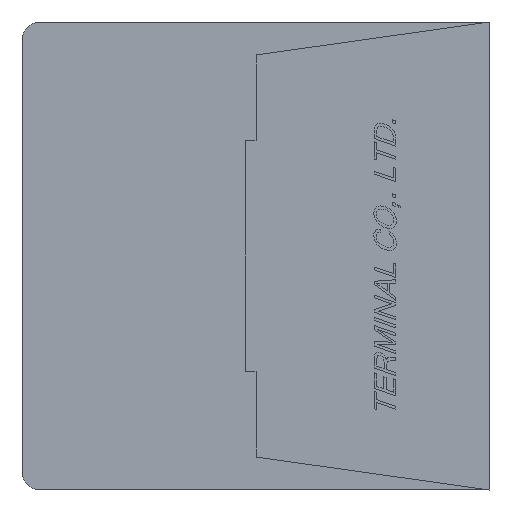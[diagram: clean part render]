
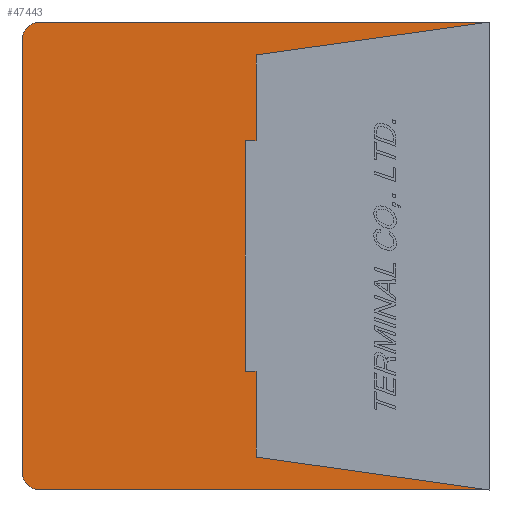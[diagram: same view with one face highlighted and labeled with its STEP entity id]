
A CAD part, left-side view. The second image highlights one B-rep face of the part: STEP entity #47443.
In plain terms, the highlighted planar face has unit normal (-1, 0, 0).
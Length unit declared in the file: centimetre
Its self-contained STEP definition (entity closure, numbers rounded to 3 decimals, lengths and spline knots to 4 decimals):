
#405=CIRCLE('',#81593,0.05);
#406=CIRCLE('',#81594,0.05);
#2930=VERTEX_POINT('',#62623);
#2931=VERTEX_POINT('',#62625);
#2932=VERTEX_POINT('',#62629);
#2933=VERTEX_POINT('',#62633);
#2934=VERTEX_POINT('',#62637);
#2935=VERTEX_POINT('',#62641);
#2936=VERTEX_POINT('',#62645);
#2937=VERTEX_POINT('',#62649);
#2938=VERTEX_POINT('',#62653);
#2939=VERTEX_POINT('',#62655);
#2940=VERTEX_POINT('',#62657);
#2941=VERTEX_POINT('',#62659);
#7893=VECTOR('',#52866,1.);
#7896=VECTOR('',#52870,1.);
#7898=VECTOR('',#52873,1.);
#7900=VECTOR('',#52876,1.);
#7902=VECTOR('',#52879,1.);
#7904=VECTOR('',#52882,1.);
#7906=VECTOR('',#52885,1.);
#7907=VECTOR('',#52887,1.);
#7908=VECTOR('',#52890,1.);
#7909=VECTOR('',#52893,1.);
#13566=LINE('',#62624,#7893);
#13569=LINE('',#62630,#7896);
#13571=LINE('',#62634,#7898);
#13573=LINE('',#62638,#7900);
#13575=LINE('',#62642,#7902);
#13577=LINE('',#62646,#7904);
#13579=LINE('',#62650,#7906);
#13580=LINE('',#62652,#7907);
#13581=LINE('',#62656,#7908);
#13582=LINE('',#62660,#7909);
#19347=EDGE_CURVE('',#2931,#2930,#13566,.T.);
#19350=EDGE_CURVE('',#2930,#2932,#13569,.T.);
#19352=EDGE_CURVE('',#2932,#2933,#13571,.T.);
#19354=EDGE_CURVE('',#2933,#2934,#13573,.T.);
#19356=EDGE_CURVE('',#2934,#2935,#13575,.T.);
#19358=EDGE_CURVE('',#2935,#2936,#13577,.T.);
#19360=EDGE_CURVE('',#2936,#2937,#13579,.T.);
#19361=EDGE_CURVE('',#2937,#2938,#13580,.T.);
#19362=EDGE_CURVE('',#2939,#2938,#405,.T.);
#19363=EDGE_CURVE('',#2939,#2940,#13581,.T.);
#19364=EDGE_CURVE('',#2941,#2940,#406,.T.);
#19365=EDGE_CURVE('',#2941,#2931,#13582,.T.);
#27224=ORIENTED_EDGE('',*,*,#19347,.T.);
#27225=ORIENTED_EDGE('',*,*,#19350,.T.);
#27226=ORIENTED_EDGE('',*,*,#19352,.T.);
#27227=ORIENTED_EDGE('',*,*,#19354,.T.);
#27228=ORIENTED_EDGE('',*,*,#19356,.T.);
#27229=ORIENTED_EDGE('',*,*,#19358,.T.);
#27230=ORIENTED_EDGE('',*,*,#19360,.T.);
#27231=ORIENTED_EDGE('',*,*,#19361,.T.);
#27232=ORIENTED_EDGE('',*,*,#19362,.F.);
#27233=ORIENTED_EDGE('',*,*,#19363,.T.);
#27234=ORIENTED_EDGE('',*,*,#19364,.F.);
#27235=ORIENTED_EDGE('',*,*,#19365,.T.);
#41075=EDGE_LOOP('',(#27224,#27225,#27226,#27227,#27228,#27229,#27230,#27231,
#27232,#27233,#27234,#27235));
#44272=FACE_BOUND('',#41075,.T.);
#47443=ADVANCED_FACE('',(#44272),#50290,.F.);
#50290=PLANE('',#81592);
#52866=DIRECTION('',(0.,0.99,0.139));
#52870=DIRECTION('',(0.,0.,1.));
#52873=DIRECTION('',(0.,1.,0.));
#52876=DIRECTION('',(0.,0.,1.));
#52879=DIRECTION('',(0.,-1.,0.));
#52882=DIRECTION('',(0.,0.,1.));
#52885=DIRECTION('',(0.,-0.99,0.139));
#52886=DIRECTION('',(1.,0.,0.));
#52887=DIRECTION('',(0.,1.,0.));
#52888=DIRECTION('',(1.,0.,0.));
#52889=DIRECTION('',(0.,0.,-0.05));
#52890=DIRECTION('',(0.,0.,-1.));
#52891=DIRECTION('',(1.,0.,0.));
#52892=DIRECTION('',(0.,0.,-0.05));
#52893=DIRECTION('',(0.,-1.,0.));
#62623=CARTESIAN_POINT('',(-0.889,0.64,-0.55));
#62624=CARTESIAN_POINT('',(-0.889,0.5152,-0.5675));
#62625=CARTESIAN_POINT('',(-0.889,0.,-0.64));
#62629=CARTESIAN_POINT('',(-0.889,0.64,-0.315));
#62630=CARTESIAN_POINT('',(-0.889,0.64,-0.2163));
#62633=CARTESIAN_POINT('',(-0.889,0.67,-0.315));
#62634=CARTESIAN_POINT('',(-0.889,0.6447,-0.315));
#62637=CARTESIAN_POINT('',(-0.889,0.67,0.315));
#62638=CARTESIAN_POINT('',(-0.889,0.67,0.));
#62641=CARTESIAN_POINT('',(-0.889,0.64,0.315));
#62642=CARTESIAN_POINT('',(-0.889,0.6447,0.315));
#62645=CARTESIAN_POINT('',(-0.889,0.64,0.55));
#62646=CARTESIAN_POINT('',(-0.889,0.64,0.2162));
#62649=CARTESIAN_POINT('',(-0.889,0.,0.64));
#62650=CARTESIAN_POINT('',(-0.889,0.5152,0.5675));
#62651=CARTESIAN_POINT('',(-0.889,0.6345,0.));
#62652=CARTESIAN_POINT('',(-0.889,0.,0.64));
#62653=CARTESIAN_POINT('',(-0.889,1.23,0.64));
#62654=CARTESIAN_POINT('',(-0.889,1.23,0.59));
#62655=CARTESIAN_POINT('',(-0.889,1.28,0.59));
#62656=CARTESIAN_POINT('',(-0.889,1.28,0.59));
#62657=CARTESIAN_POINT('',(-0.889,1.28,-0.59));
#62658=CARTESIAN_POINT('',(-0.889,1.23,-0.59));
#62659=CARTESIAN_POINT('',(-0.889,1.23,-0.64));
#62660=CARTESIAN_POINT('',(-0.889,1.23,-0.64));
#81592=AXIS2_PLACEMENT_3D('',#62651,#52886,$);
#81593=AXIS2_PLACEMENT_3D('',#62654,#52888,#52889);
#81594=AXIS2_PLACEMENT_3D('',#62658,#52891,#52892);
